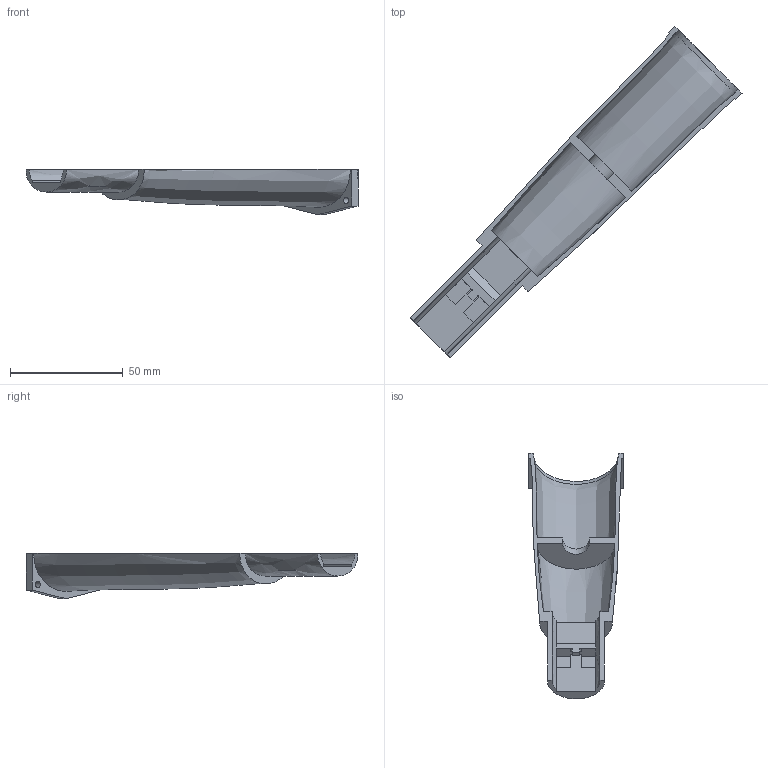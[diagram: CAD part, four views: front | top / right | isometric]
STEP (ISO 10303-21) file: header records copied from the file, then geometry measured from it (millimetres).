
FILE_DESCRIPTION(/* description */ ('STEP AP242 Edition 2','CAx-IF Rec.Pracs.---Representation and Presentation of Product Manufacturing Information (PMI)---4.0---2014-10-13','CAx-IF Rec.Pracs.---3D Tessellated Geometry---0.4---2014-09-14','2;1','CAx-IF Rec.Pracs.---User Defined Attributes---1.5---2016-08-15'),/* implementation_level */ '2;1');
FILE_NAME(/* name */ 'Part Studio 2 - Handle half part 1',/* time_stamp */ '2026-02-06T19:17:59Z',/* author */ (''),/* organization */ (''),/* preprocessor_version */ 'ST-DEVELOPER v20',/* originating_system */ 'ONSHAPE BY PTC INC, 1.210',/* authorisation */ ' ');
FILE_SCHEMA (('AP242_MANAGED_MODEL_BASED_3D_ENGINEERING_MIM_LF { 1 0 10303 442 3 1 4 }'));
Length unit declared in the file: metre
Products named in the file (1): Handle half part 1
Bounding box: 146.94 x 146.93 x 20.01 mm (x, y, z)
Volume: 18545.2 mm3; surface area: 18685.9 mm2
Topology: 1 solids, 1 shells, 50 faces, 144 edges, 94 vertices
Faces by surface type: plane 37, bspline 10, cylinder 3
Full cylindrical faces by diameter (mm): 3 x2
Entity records: 3618 total; most frequent: CARTESIAN_POINT 2369, ORIENTED_EDGE 284, DIRECTION 199, EDGE_CURVE 142, LINE 99, VECTOR 99, VERTEX_POINT 94, EDGE_LOOP 58
